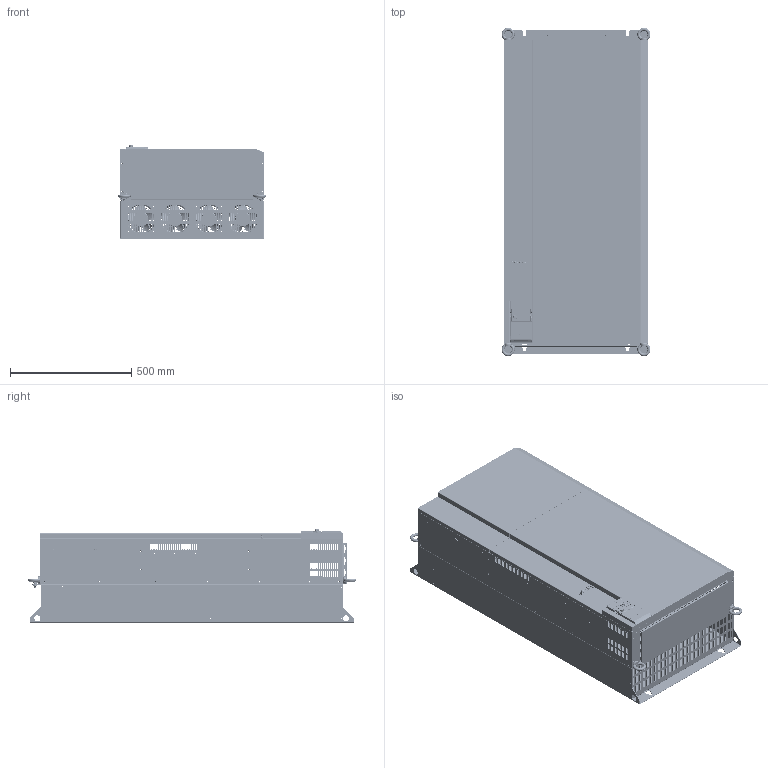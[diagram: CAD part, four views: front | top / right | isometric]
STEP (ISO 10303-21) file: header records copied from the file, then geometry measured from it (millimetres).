
FILE_DESCRIPTION((''),'2;1');
FILE_NAME('VFC5610-220K-3P4-MNA-7P-NNNNN-N','2023-03-27T15:10:33',('ZUX1XI'),(''),'CREO PARAMETRIC BY PTC INC, 2021072','CREO PARAMETRIC BY PTC INC, 2021072','');
FILE_SCHEMA(('AUTOMOTIVE_DESIGN { 1 0 10303 214 1 1 1 1 }'));
Products named in the file (150): SE5M_BASE_P1_A_3_1_1_1_1_1; SE5M_BASE_P1_A_3_18_1_1_1_1; SE5M_BASE_P1_A_3_19_1_1_1_1; SE5M_BASE_P1_A_3_24_1_1_1_1; SE5M_BASE_P1_A_3_25_1_1_1_1; SE5M_BASE_P1_A_3_1_1_1_1; SE5M_BASE_P3_A_3_1_1_1_1; SE5M_BASE_FAN_A_3_1_1_1_1_1; SE5M_BASE_FAN_A_3_2_1_1_1_1; SE5M_BASE_FAN_A_3_3_1_1_1_1; SE5M_BASE_FAN_A_3_4_1_1_1_1; SE5M_BASE_FAN_A_3_5_1_1_1_1; SE5M_BASE_FAN_A_3_6_1_1_1_1; SE5M_BASE_FAN_A_3_7_1_1_1_1; SE5M_BASE_FAN_A_3_8_1_1_1_1; SE5M_BASE_FAN_A_3_9_1_1_1_1; SE5M_BASE_FAN_A_3_10_1_1_1_1; SE5M_BASE_FAN_A_3_11_1_1_1_1; SE5M_BASE_FAN_A_3_12_1_1_1_1; SE5M_BASE_FAN_A_3_13_1_1_1_1; SE5M_BASE_FAN_A_3_14_1_1_1_1; SE5M_BASE_FAN_A_3_15_1_1_1_1; SE5M_BASE_FAN_A_3_16_1_1_1_1; SE5M_BASE_FAN_A_3_17_1_1_1_1; SE5M_BASE_FAN_A_3_1_1_1_1; SV5M_ZHONGCENG_A_5_1_1_1_1_1; SV5M_ZHONGCENG_A_5_8_1_1_1_1; SV5M_ZHONGCENG_A_5_14_1_1_1_1; SV5M_ZHONGCENG_A_5_15_1_1_1_1; SV5M_ZHONGCENG_A_5_16_1_1_1_1; SV5M_ZHONGCENG_A_5_20_1_1_1_1; SV5M_ZHONGCENG_A_5_51_1_1_1_1; SV5M_ZHONGCENG_A_5_1_1_1_1; SE5M_GND_A_3_1_1_1_1_1; SE5M_GND_A_3_2_1_1_1_1; SE5M_GND_A_3_3_1_1_1_1; SE5M_GND_A_3_4_1_1_1_1; SE5M_GND_A_3_5_1_1_1_1; SE5M_GND_A_3_6_1_1_1_1; SE5M_GND_A_3_7_1_1_1_1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
Assembly tree (179 placements, depth 10):
  VFC5610-220K-3P4-MNA-7P-NNNNN-N
    VFC5610-220K-3P4-MNA-7P-NNNNN_2
      VFC5610-220K-3P4-MNA-7P-NNNNN_1
        VFC5610-200K-3P4-MNA-LP-NNNNN-N
          00-XFCX610-200KW_1_1_1_1
            00-XFCX610-200KW_60_1_1_1_1
              SE5M_BASE_P1_A_3_1_1_1_1
                SE5M_BASE_P1_A_3_1_1_1_1_1
                SE5M_BASE_P1_A_3_18_1_1_1_1
                SE5M_BASE_P1_A_3_19_1_1_1_1
                SE5M_BASE_P1_A_3_24_1_1_1_1
                SE5M_BASE_P1_A_3_25_1_1_1_1
              SE5M_BASE_P3_A_3_1_1_1_1
              SE5M_BASE_FAN_A_3_1_1_1_1
                SE5M_BASE_FAN_A_3_1_1_1_1_1
                SE5M_BASE_FAN_A_3_2_1_1_1_1
                SE5M_BASE_FAN_A_3_3_1_1_1_1
                SE5M_BASE_FAN_A_3_4_1_1_1_1
                SE5M_BASE_FAN_A_3_5_1_1_1_1
                SE5M_BASE_FAN_A_3_6_1_1_1_1
                SE5M_BASE_FAN_A_3_7_1_1_1_1
                SE5M_BASE_FAN_A_3_8_1_1_1_1
                SE5M_BASE_FAN_A_3_9_1_1_1_1
                SE5M_BASE_FAN_A_3_10_1_1_1_1
                SE5M_BASE_FAN_A_3_11_1_1_1_1
                SE5M_BASE_FAN_A_3_12_1_1_1_1
                SE5M_BASE_FAN_A_3_13_1_1_1_1
                SE5M_BASE_FAN_A_3_14_1_1_1_1
                SE5M_BASE_FAN_A_3_15_1_1_1_1
                SE5M_BASE_FAN_A_3_16_1_1_1_1
                SE5M_BASE_FAN_A_3_17_1_1_1_1
              SV5M_ZHONGCENG_A_5_1_1_1_1
                SV5M_ZHONGCENG_A_5_1_1_1_1_1
                SV5M_ZHONGCENG_A_5_8_1_1_1_1
                SV5M_ZHONGCENG_A_5_14_1_1_1_1
                SV5M_ZHONGCENG_A_5_15_1_1_1_1
                SV5M_ZHONGCENG_A_5_16_1_1_1_1
                SV5M_ZHONGCENG_A_5_20_1_1_1_1
                SV5M_ZHONGCENG_A_5_51_1_1_1_1
              SE5M_GND_A_3_1_1_1_1
                SE5M_GND_A_3_1_1_1_1_1
                SE5M_GND_A_3_2_1_1_1_1
                SE5M_GND_A_3_3_1_1_1_1
                SE5M_GND_A_3_4_1_1_1_1
                SE5M_GND_A_3_5_1_1_1_1
                SE5M_GND_A_3_6_1_1_1_1
                SE5M_GND_A_3_7_1_1_1_1
                SE5M_GND_A_3_8_1_1_1_1
                SE5M_GND_A_3_9_1_1_1_1
                SE5M_GND_A_3_10_1_1_1_1
                SE5M_GND_A_3_11_1_1_1_1
                SE5M_GND_A_3_12_1_1_1_1
                SE5M_GND_A_3_13_1_1_1_1
                SE5M_GND_A_3_14_1_1_1_1
                SE5M_GND_A_3_15_1_1_1_1
                SE5M_GND_A_3_16_1_1_1_1
                SE5M_GND_A_3_17_1_1_1_1
              LDZHJ_SZCYZT_M5X14_3_1_1_1_1  x4
              BUS_BAR_CE5M_L1_A_2_1_1_1_1
              BUS_BAR_CE5M_L2_A_2_1_1_1_1
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Bounding box: 614 x 1354.5 x 385.55 mm (x, y, z)
Volume: 7126689.8 mm3; surface area: 7720659.7 mm2
Topology: 145 solids, 152 shells, 13479 faces, 37060 edges, 23905 vertices
Faces by surface type: plane 6907, cylinder 4492, bspline 790, torus 676, cone 350, sphere 157, extrusion 107
Entity records: 488111 total; most frequent: CARTESIAN_POINT 103684, ORIENTED_EDGE 58294, DIRECTION 57140, PRESENTATION_STYLE_ASSIGNMENT 30352, STYLED_ITEM 29248, CURVE_STYLE 29148, EDGE_CURVE 29148, AXIS2_PLACEMENT_3D 19296
